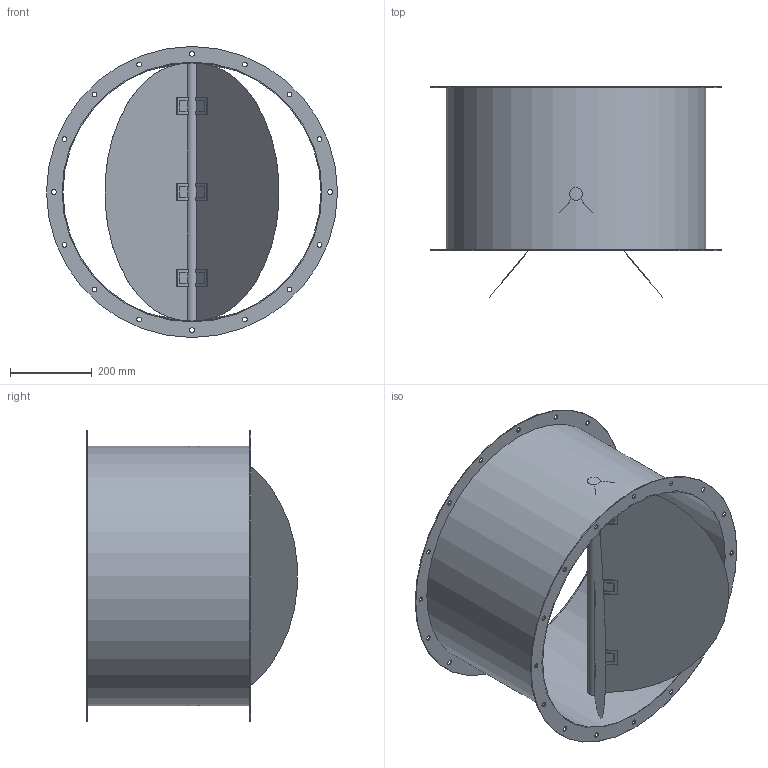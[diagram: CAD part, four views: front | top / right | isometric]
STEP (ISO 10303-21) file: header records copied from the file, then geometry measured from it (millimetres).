
FILE_DESCRIPTION(/* description */ (''),/* implementation_level */ '2;1');
FILE_NAME(/* name */ 'Z:\Output\RVS_630-02600-001.stp',/* time_stamp */ '2020-06-26T09:33:43+02:00',/* author */ ('engineering1'),/* organization */ (''),/* preprocessor_version */ 'ST-DEVELOPER v17.2',/* originating_system */ 'Autodesk Inventor 2019',/* authorisation */ '');
FILE_SCHEMA (('AUTOMOTIVE_DESIGN { 1 0 10303 214 3 1 1 }'));
Length unit declared in the file: millimetre
Products named in the file (1): RVS-1
Bounding box: 710 x 514.17 x 710 mm (x, y, z)
Volume: 2435072.9 mm3; surface area: 2600976.6 mm2
Topology: 1 solids, 1 shells, 158 faces, 482 edges, 300 vertices
Faces by surface type: plane 118, cylinder 40
Full cylindrical faces by diameter (mm): 11.5 x32, 630 x1, 634 x1, 710 x2
Entity records: 5665 total; most frequent: CARTESIAN_POINT 1087, ORIENTED_EDGE 964, DIRECTION 900, EDGE_CURVE 482, LINE 366, VECTOR 366, VERTEX_POINT 300, AXIS2_PLACEMENT_3D 267
